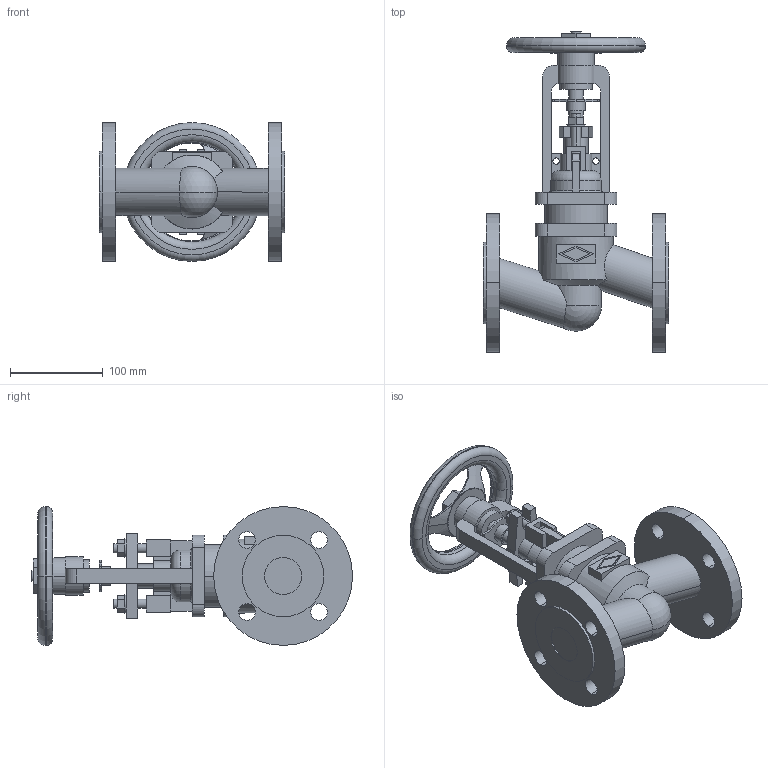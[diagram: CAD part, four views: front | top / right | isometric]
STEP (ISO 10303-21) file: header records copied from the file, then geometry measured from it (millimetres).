
FILE_DESCRIPTION(('OneSpaceDesigner STEP Export'),'2;1');
FILE_NAME('c000003739.stp','2009-06-15T13:03:55',(''),(''),'OneSpace Designer STEP processor for AP214 (Solid Model)','OneSpace Modeling 15.50B 03-Nov-2007 (C) CoCreate Software GmbH','');
FILE_SCHEMA(('AUTOMOTIVE_DESIGN { 1 0 10303 214 1 1 1 1 }'));
Length unit declared in the file: millimetre
Products named in the file (1): 1
Bounding box: 200 x 346.9 x 150 mm (x, y, z)
Volume: 1780831 mm3; surface area: 240597.3 mm2
Topology: 1 solids, 1 shells, 285 faces, 764 edges, 503 vertices
Faces by surface type: plane 140, cylinder 117, torus 18, cone 8, sphere 2
Entity records: 11492 total; most frequent: CARTESIAN_POINT 2400, ORIENTED_EDGE 1516, DIRECTION 1269, EDGE_CURVE 758, VERTEX_POINT 499, AXIS2_PLACEMENT_3D 429, VECTOR 411, LINE 411
